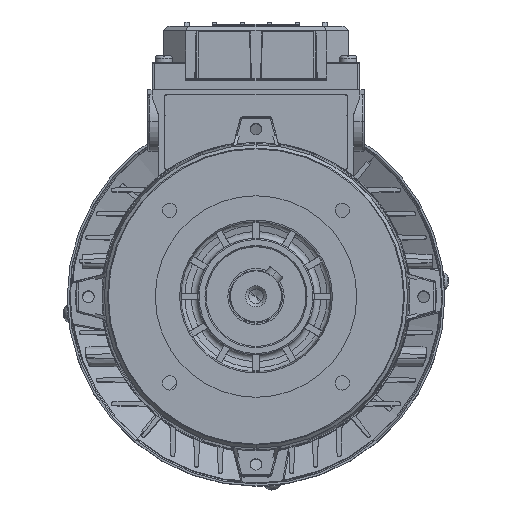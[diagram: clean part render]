
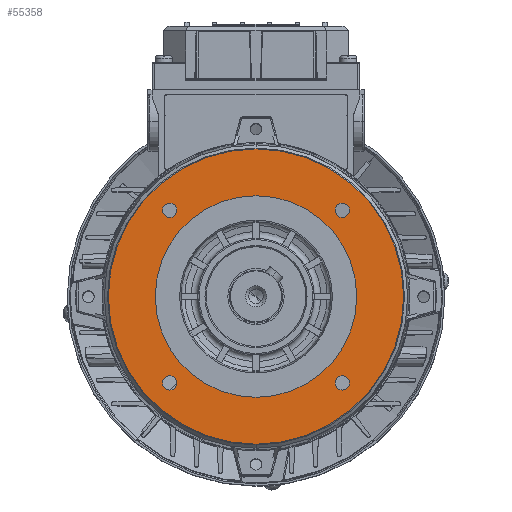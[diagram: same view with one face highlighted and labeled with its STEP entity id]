
A CAD part, top view. The second image highlights one B-rep face of the part: STEP entity #55358.
In plain terms, the highlighted planar face has unit normal (0, 0, 1) as drawn and (0, 1, 0) by its records, which use the part's own axes.
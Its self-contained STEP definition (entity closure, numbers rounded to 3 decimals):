
#20 = ORIENTED_EDGE ( 'NONE', *, *, #25644, .T. ) ;
#1610 = DIRECTION ( 'NONE',  ( 1., 0., 0. ) ) ;
#1928 = EDGE_CURVE ( 'NONE', #26737, #114741, #122252, .T. ) ;
#2640 = ORIENTED_EDGE ( 'NONE', *, *, #31001, .T. ) ;
#3759 = ORIENTED_EDGE ( 'NONE', *, *, #8122, .T. ) ;
#5019 = DIRECTION ( 'NONE',  ( 0., -1., 0. ) ) ;
#6678 = CARTESIAN_POINT ( 'NONE',  ( 40.659, 37., 37.259 ) ) ;
#7195 = ORIENTED_EDGE ( 'NONE', *, *, #139597, .T. ) ;
#8122 = EDGE_CURVE ( 'NONE', #88346, #20234, #24485, .T. ) ;
#8637 = DIRECTION ( 'NONE',  ( 1., 0., 0. ) ) ;
#10449 = EDGE_LOOP ( 'NONE', ( #3759, #2640 ) ) ;
#13229 = AXIS2_PLACEMENT_3D ( 'NONE', #70598, #5019, #81577 ) ;
#15249 = FACE_BOUND ( 'NONE', #43948, .T. ) ;
#15537 = DIRECTION ( 'NONE',  ( 0., -1., 0. ) ) ;
#15871 = ORIENTED_EDGE ( 'NONE', *, *, #83953, .T. ) ;
#16327 = VERTEX_POINT ( 'NONE', #113809 ) ;
#16771 = EDGE_LOOP ( 'NONE', ( #20, #22204 ) ) ;
#17084 = CARTESIAN_POINT ( 'NONE',  ( 0., 37., 0. ) ) ;
#17786 = AXIS2_PLACEMENT_3D ( 'NONE', #117699, #52327, #128605 ) ;
#17965 = CIRCLE ( 'NONE', #89519, 3.4 ) ;
#19275 = CARTESIAN_POINT ( 'NONE',  ( 0., 37., 0. ) ) ;
#20234 = VERTEX_POINT ( 'NONE', #78414 ) ;
#20807 = EDGE_LOOP ( 'NONE', ( #49598, #73473 ) ) ;
#21272 = CARTESIAN_POINT ( 'NONE',  ( 69.6, 37., 0. ) ) ;
#22204 = ORIENTED_EDGE ( 'NONE', *, *, #91232, .T. ) ;
#22533 = CARTESIAN_POINT ( 'NONE',  ( -40.659, 37., -40.659 ) ) ;
#24485 = CIRCLE ( 'NONE', #94161, 69.6 ) ;
#25644 = EDGE_CURVE ( 'NONE', #140953, #25798, #17965, .T. ) ;
#25798 = VERTEX_POINT ( 'NONE', #136218 ) ;
#26737 = VERTEX_POINT ( 'NONE', #92563 ) ;
#26851 = CIRCLE ( 'NONE', #76844, 3.4 ) ;
#27444 = AXIS2_PLACEMENT_3D ( 'NONE', #139603, #74213, #8637 ) ;
#28120 = DIRECTION ( 'NONE',  ( -1., 0., 0. ) ) ;
#30300 = DIRECTION ( 'NONE',  ( -1., 0., 0. ) ) ;
#31001 = EDGE_CURVE ( 'NONE', #20234, #88346, #47289, .T. ) ;
#32047 = DIRECTION ( 'NONE',  ( 0., -1., 0. ) ) ;
#32066 = AXIS2_PLACEMENT_3D ( 'NONE', #97585, #32047, #108544 ) ;
#33545 = DIRECTION ( 'NONE',  ( 1., 0., 0. ) ) ;
#35870 = CARTESIAN_POINT ( 'NONE',  ( -40.659, 37., 40.659 ) ) ;
#37209 = CIRCLE ( 'NONE', #75144, 3.4 ) ;
#39075 = CARTESIAN_POINT ( 'NONE',  ( 47.5, 37., 0. ) ) ;
#43948 = EDGE_LOOP ( 'NONE', ( #7195, #45582 ) ) ;
#44437 = FACE_BOUND ( 'NONE', #99426, .T. ) ;
#45582 = ORIENTED_EDGE ( 'NONE', *, *, #1928, .T. ) ;
#46385 = EDGE_CURVE ( 'NONE', #92852, #56632, #37209, .T. ) ;
#46960 = DIRECTION ( 'NONE',  ( 1., 0., 0. ) ) ;
#47118 = CIRCLE ( 'NONE', #115708, 47.5 ) ;
#47289 = CIRCLE ( 'NONE', #96445, 69.6 ) ;
#48264 = CARTESIAN_POINT ( 'NONE',  ( -40.659, 37., 37.259 ) ) ;
#49028 = CARTESIAN_POINT ( 'NONE',  ( 0., 37., 0. ) ) ;
#49598 = ORIENTED_EDGE ( 'NONE', *, *, #84562, .T. ) ;
#50122 = PLANE ( 'NONE',  #140896 ) ;
#50475 = VERTEX_POINT ( 'NONE', #59272 ) ;
#52327 = DIRECTION ( 'NONE',  ( 0., 1., 0. ) ) ;
#55358 = ADVANCED_FACE ( 'NONE', ( #44437, #15249, #73533, #128089, #99139, #70079 ), #50122, .F. ) ;
#55415 = ORIENTED_EDGE ( 'NONE', *, *, #46385, .T. ) ;
#55820 = CIRCLE ( 'NONE', #27444, 3.4 ) ;
#56632 = VERTEX_POINT ( 'NONE', #48264 ) ;
#59272 = CARTESIAN_POINT ( 'NONE',  ( -47.5, 37., 0. ) ) ;
#59964 = DIRECTION ( 'NONE',  ( -1., 0., 0. ) ) ;
#61056 = DIRECTION ( 'NONE',  ( 0., -1., 0. ) ) ;
#61379 = DIRECTION ( 'NONE',  ( 0., -1., 0. ) ) ;
#65443 = CIRCLE ( 'NONE', #17786, 47.5 ) ;
#67170 = DIRECTION ( 'NONE',  ( 0., -1., 0. ) ) ;
#70079 = FACE_OUTER_BOUND ( 'NONE', #10449, .T. ) ;
#70598 = CARTESIAN_POINT ( 'NONE',  ( 40.659, 37., 40.659 ) ) ;
#73473 = ORIENTED_EDGE ( 'NONE', *, *, #134230, .T. ) ;
#73533 = FACE_BOUND ( 'NONE', #20807, .T. ) ;
#74213 = DIRECTION ( 'NONE',  ( 0., -1., 0. ) ) ;
#75144 = AXIS2_PLACEMENT_3D ( 'NONE', #35870, #112355, #46960 ) ;
#76844 = AXIS2_PLACEMENT_3D ( 'NONE', #81124, #15537, #92132 ) ;
#78414 = CARTESIAN_POINT ( 'NONE',  ( -69.6, 37., 0. ) ) ;
#81124 = CARTESIAN_POINT ( 'NONE',  ( -40.659, 37., 40.659 ) ) ;
#81577 = DIRECTION ( 'NONE',  ( 1., 0., 0. ) ) ;
#83953 = EDGE_CURVE ( 'NONE', #56632, #92852, #26851, .T. ) ;
#84562 = EDGE_CURVE ( 'NONE', #16327, #103195, #55820, .T. ) ;
#87076 = CIRCLE ( 'NONE', #113287, 3.4 ) ;
#88346 = VERTEX_POINT ( 'NONE', #21272 ) ;
#88723 = EDGE_CURVE ( 'NONE', #117647, #50475, #65443, .T. ) ;
#89519 = AXIS2_PLACEMENT_3D ( 'NONE', #22533, #99086, #33545 ) ;
#90333 = CARTESIAN_POINT ( 'NONE',  ( 40.659, 37., -37.259 ) ) ;
#91232 = EDGE_CURVE ( 'NONE', #25798, #140953, #87076, .T. ) ;
#92132 = DIRECTION ( 'NONE',  ( 1., 0., 0. ) ) ;
#92563 = CARTESIAN_POINT ( 'NONE',  ( 40.659, 37., 44.059 ) ) ;
#92852 = VERTEX_POINT ( 'NONE', #103813 ) ;
#93634 = DIRECTION ( 'NONE',  ( 0., 1., 0. ) ) ;
#94161 = AXIS2_PLACEMENT_3D ( 'NONE', #49028, #125334, #59964 ) ;
#95828 = DIRECTION ( 'NONE',  ( 0., 1., 0. ) ) ;
#96445 = AXIS2_PLACEMENT_3D ( 'NONE', #17084, #93634, #28120 ) ;
#97585 = CARTESIAN_POINT ( 'NONE',  ( 40.659, 37., 40.659 ) ) ;
#99086 = DIRECTION ( 'NONE',  ( 0., -1., 0. ) ) ;
#99139 = FACE_BOUND ( 'NONE', #135863, .T. ) ;
#99426 = EDGE_LOOP ( 'NONE', ( #15871, #55415 ) ) ;
#103195 = VERTEX_POINT ( 'NONE', #90333 ) ;
#103813 = CARTESIAN_POINT ( 'NONE',  ( -40.659, 37., 44.059 ) ) ;
#108544 = DIRECTION ( 'NONE',  ( 1., 0., 0. ) ) ;
#109435 = CARTESIAN_POINT ( 'NONE',  ( 47.5, 37., 0. ) ) ;
#110846 = ORIENTED_EDGE ( 'NONE', *, *, #88723, .F. ) ;
#112355 = DIRECTION ( 'NONE',  ( 0., -1., 0. ) ) ;
#113287 = AXIS2_PLACEMENT_3D ( 'NONE', #132524, #67170, #1610 ) ;
#113809 = CARTESIAN_POINT ( 'NONE',  ( 40.659, 37., -44.059 ) ) ;
#114741 = VERTEX_POINT ( 'NONE', #6678 ) ;
#115708 = AXIS2_PLACEMENT_3D ( 'NONE', #19275, #95828, #30300 ) ;
#115873 = CIRCLE ( 'NONE', #136340, 3.4 ) ;
#117647 = VERTEX_POINT ( 'NONE', #109435 ) ;
#117699 = CARTESIAN_POINT ( 'NONE',  ( 0., 37., 0. ) ) ;
#122252 = CIRCLE ( 'NONE', #32066, 3.4 ) ;
#123956 = CARTESIAN_POINT ( 'NONE',  ( -40.659, 37., -44.059 ) ) ;
#125334 = DIRECTION ( 'NONE',  ( 0., 1., 0. ) ) ;
#126777 = CARTESIAN_POINT ( 'NONE',  ( 40.659, 37., -40.659 ) ) ;
#128089 = FACE_BOUND ( 'NONE', #16771, .T. ) ;
#128605 = DIRECTION ( 'NONE',  ( -1., 0., 0. ) ) ;
#130545 = ORIENTED_EDGE ( 'NONE', *, *, #137643, .F. ) ;
#132031 = CIRCLE ( 'NONE', #13229, 3.4 ) ;
#132524 = CARTESIAN_POINT ( 'NONE',  ( -40.659, 37., -40.659 ) ) ;
#134230 = EDGE_CURVE ( 'NONE', #103195, #16327, #115873, .T. ) ;
#135863 = EDGE_LOOP ( 'NONE', ( #130545, #110846 ) ) ;
#136218 = CARTESIAN_POINT ( 'NONE',  ( -40.659, 37., -37.259 ) ) ;
#136340 = AXIS2_PLACEMENT_3D ( 'NONE', #126777, #61379, #137818 ) ;
#137484 = DIRECTION ( 'NONE',  ( 1., 0., 0. ) ) ;
#137643 = EDGE_CURVE ( 'NONE', #50475, #117647, #47118, .T. ) ;
#137818 = DIRECTION ( 'NONE',  ( 1., 0., 0. ) ) ;
#139597 = EDGE_CURVE ( 'NONE', #114741, #26737, #132031, .T. ) ;
#139603 = CARTESIAN_POINT ( 'NONE',  ( 40.659, 37., -40.659 ) ) ;
#140896 = AXIS2_PLACEMENT_3D ( 'NONE', #39075, #61056, #137484 ) ;
#140953 = VERTEX_POINT ( 'NONE', #123956 ) ;
